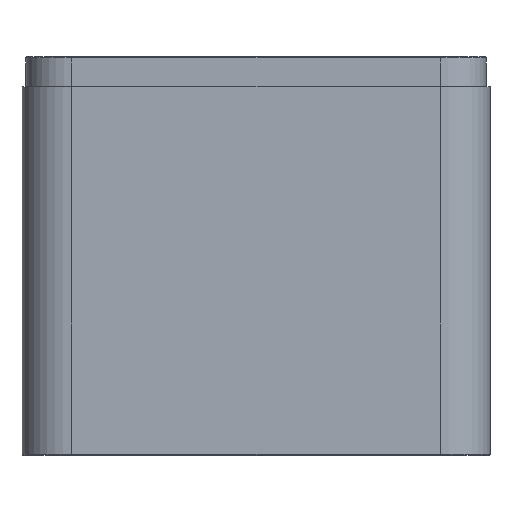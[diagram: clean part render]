
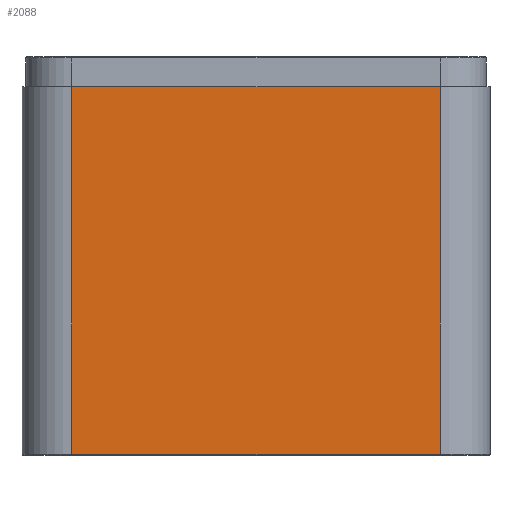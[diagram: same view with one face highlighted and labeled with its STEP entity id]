
A CAD part, left-side view. The second image highlights one B-rep face of the part: STEP entity #2088.
In plain terms, the highlighted planar face has unit normal (-1, 0, 0).
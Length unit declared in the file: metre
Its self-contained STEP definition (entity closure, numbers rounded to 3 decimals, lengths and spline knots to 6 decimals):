
#131=LINE('',#3280,#327);
#132=LINE('',#3283,#328);
#133=LINE('',#3285,#329);
#134=LINE('',#3287,#330);
#327=VECTOR('',#2562,1.);
#328=VECTOR('',#2563,1.);
#329=VECTOR('',#2564,1.);
#330=VECTOR('',#2565,1.);
#539=ORIENTED_EDGE('',*,*,#1157,.T.);
#540=ORIENTED_EDGE('',*,*,#1158,.T.);
#541=ORIENTED_EDGE('',*,*,#1159,.F.);
#542=ORIENTED_EDGE('',*,*,#1160,.T.);
#1157=EDGE_CURVE('',#1464,#1465,#131,.T.);
#1158=EDGE_CURVE('',#1465,#1466,#132,.F.);
#1159=EDGE_CURVE('',#1467,#1466,#133,.T.);
#1160=EDGE_CURVE('',#1467,#1464,#134,.T.);
#1464=VERTEX_POINT('',#3281);
#1465=VERTEX_POINT('',#3282);
#1466=VERTEX_POINT('',#3284);
#1467=VERTEX_POINT('',#3286);
#1718=EDGE_LOOP('',(#539,#540,#541,#542));
#1872=FACE_BOUND('',#1718,.T.);
#2023=PLANE('',#2243);
#2088=ADVANCED_FACE('',(#1872),#2023,.T.);
#2243=AXIS2_PLACEMENT_3D('',#3279,#2560,#2561);
#2560=DIRECTION('',(-1.,0.,0.));
#2561=DIRECTION('',(0.,-1.,0.));
#2562=DIRECTION('',(0.,0.,-1.));
#2563=DIRECTION('',(0.,1.,0.));
#2564=DIRECTION('',(0.,0.,-1.));
#2565=DIRECTION('',(0.,1.,0.));
#3279=CARTESIAN_POINT('',(-0.1175,0.,0.2));
#3280=CARTESIAN_POINT('',(-0.1175,0.0925,0.2));
#3281=CARTESIAN_POINT('',(-0.1175,0.0925,0.185));
#3282=CARTESIAN_POINT('',(-0.1175,0.0925,0.0005));
#3283=CARTESIAN_POINT('',(-0.1175,-0.0925,0.0005));
#3284=CARTESIAN_POINT('',(-0.1175,-0.0925,0.0005));
#3285=CARTESIAN_POINT('',(-0.1175,-0.0925,0.2));
#3286=CARTESIAN_POINT('',(-0.1175,-0.0925,0.185));
#3287=CARTESIAN_POINT('',(-0.1175,0.,0.185));
